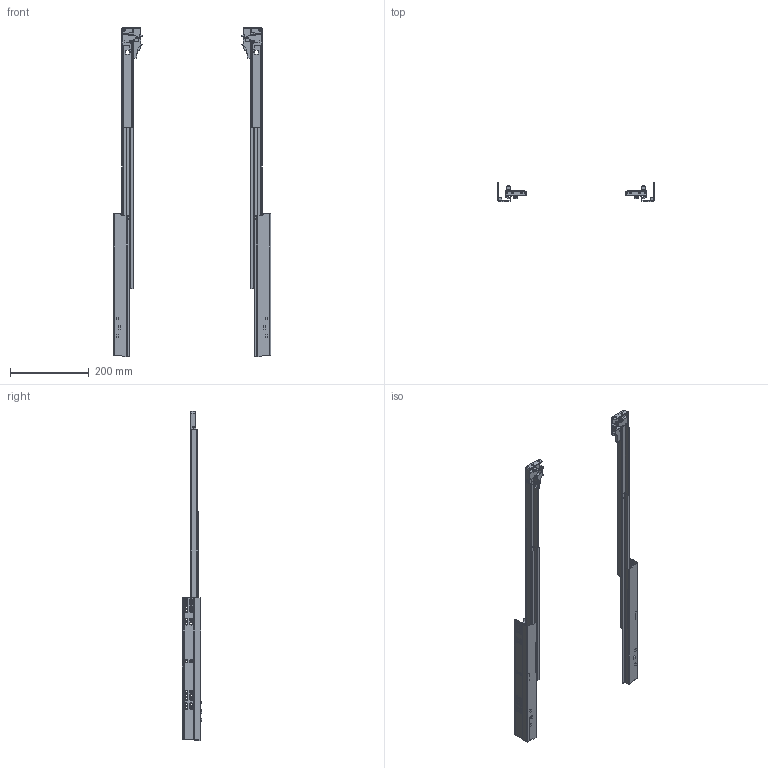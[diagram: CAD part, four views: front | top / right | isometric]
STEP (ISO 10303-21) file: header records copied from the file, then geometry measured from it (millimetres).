
FILE_DESCRIPTION(/* description */ (''),/* implementation_level */ '2;1');
FILE_NAME(/* name */ 'D:\$Workingspace\Designs\Katalog\Cadsoft\GTV Prowadnice\Prowadnice GTV_bryły 3D\PB-0SHX-500-A_wysuw.stp',/* time_stamp */ '2016-11-21T13:04:35+01:00',/* author */ ('tomaszw'),/* organization */ (''),/* preprocessor_version */ 'ST-DEVELOPER v16.1',/* originating_system */ 'Autodesk Inventor 2016',/* authorisation */ '');
FILE_SCHEMA (('AUTOMOTIVE_DESIGN { 1 0 10303 214 3 1 1 }'));
Products named in the file (9): PB-0SHX-CL-500; PB-0SHX-CR-500; PB-0SHX-DL-500; PB-0SHX-DR-500; PB-0SHX-DWL-500; PB-0SHX-DWR-500; PB-0SHX-SL; PB-0SHX-SR; PB-0SHX
Assembly tree (8 placements, depth 2):
  PB-0SHX
    PB-0SHX-CL-500
    PB-0SHX-CR-500
    PB-0SHX-DL-500
    PB-0SHX-DR-500
    PB-0SHX-DWL-500
    PB-0SHX-DWR-500
    PB-0SHX-SL
    PB-0SHX-SR
Bounding box: 400 x 48.8 x 837.5 mm (x, y, z)
Volume: 322077.8 mm3; surface area: 401364.1 mm2
Topology: 14 solids, 14 shells, 3458 faces, 8192 edges, 4766 vertices
Faces by surface type: bspline 1080, cylinder 922, torus 550, plane 466, sphere 332, cone 108
Full cylindrical faces by diameter (mm): 3.64 x2, 4 x6, 4.5 x6, 5.64 x2, 6 x48
Entity records: 143411 total; most frequent: CARTESIAN_POINT 66027, ORIENTED_EDGE 15988, DIRECTION 14406, EDGE_CURVE 7994, AXIS2_PLACEMENT_3D 6193, VERTEX_POINT 4710, CIRCLE 3752, EDGE_LOOP 3736
